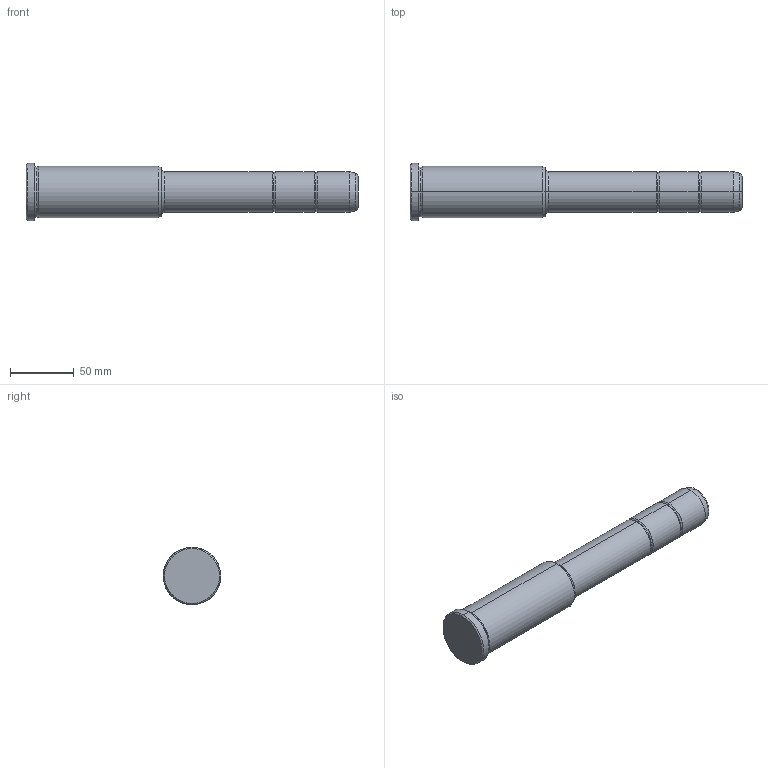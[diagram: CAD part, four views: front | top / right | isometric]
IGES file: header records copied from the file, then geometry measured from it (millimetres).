
Start section: START RECORD GO HERE.
Global section: file name: 351-32X106X260.igs; native system: DASSAULT SYSTEMES CATIA V5 R20 - www.3ds.com; preprocessor: CATIA Version 5 Release 20 ; author: Utente; organization: NB04-ASUS; date: 20210915.134530; units: millimetre
Bounding box: 260 x 45 x 45 mm (x, y, z)
Surface area: 31663.6 mm2 (no closed solid volume)
Topology: 0 solids, 0 shells, 36 faces, 204 edges, 204 vertices
Faces by surface type: revolution 32, plane 4
